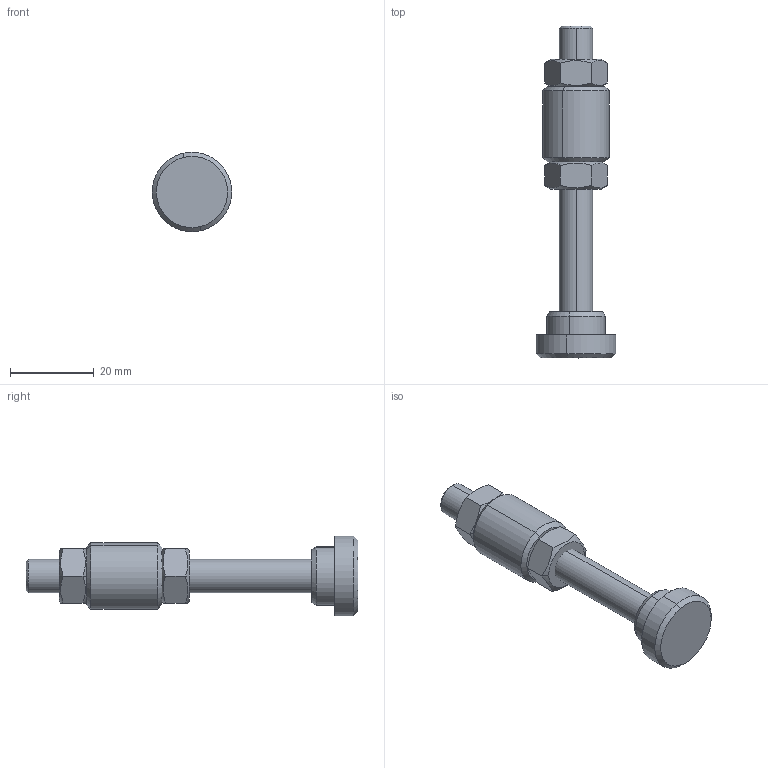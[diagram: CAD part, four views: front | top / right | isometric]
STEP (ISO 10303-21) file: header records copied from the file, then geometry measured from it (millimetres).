
FILE_DESCRIPTION (( 'STEP AP203' ), '1' );
FILE_NAME ('ARB-M8.STEP', '2011-05-20T17:46:31', ( 'Usuario' ), ( '' ), 'SwSTEP 2.0', 'SolidWorks 2011', '' );
FILE_SCHEMA (( 'CONFIG_CONTROL_DESIGN' ));
Length unit declared in the file: millimetre
Products named in the file (5): 11.50002; ARB-M8; 20.20003; 20.20001; 20.20004
Assembly tree (5 placements, depth 2):
  ARB-M8
    11.50002  x2
    20.20001
    20.20004
    20.20003
Bounding box: 19.02 x 79.4 x 19.02 mm (x, y, z)
Volume: 9426.3 mm3; surface area: 6221.8 mm2
Topology: 5 solids, 5 shells, 78 faces, 170 edges, 103 vertices
Faces by surface type: cone 36, plane 24, cylinder 18
Entity records: 2249 total; most frequent: CARTESIAN_POINT 391, DIRECTION 310, ORIENTED_EDGE 248, AXIS2_PLACEMENT_3D 130, EDGE_CURVE 124, VERTEX_POINT 75, EDGE_LOOP 67, CIRCLE 62
